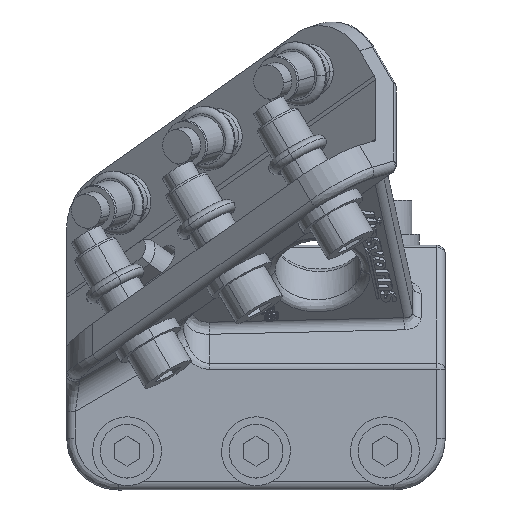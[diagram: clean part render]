
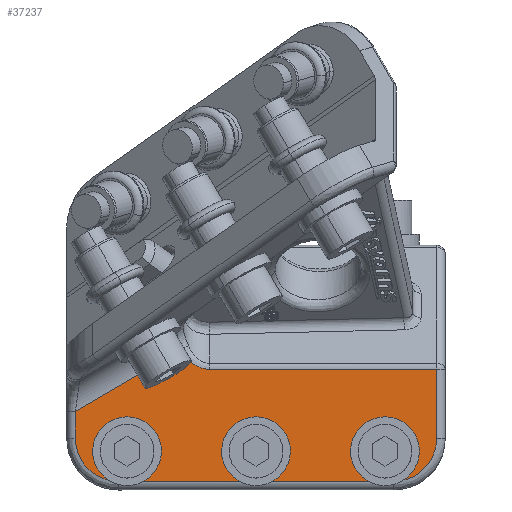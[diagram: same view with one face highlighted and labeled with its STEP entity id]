
A CAD part, top view. The second image highlights one B-rep face of the part: STEP entity #37237.
In plain terms, the highlighted planar face has unit normal (0, 0, 1).
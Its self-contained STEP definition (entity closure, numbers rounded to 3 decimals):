
#27675=CARTESIAN_POINT('Vertex',(102.681,-18.938,23.6)) ;
#27731=CARTESIAN_POINT('Control Point',(109.154,-23.607,23.6)) ;
#27732=CARTESIAN_POINT('Control Point',(107.415,-23.635,23.6)) ;
#27733=CARTESIAN_POINT('Control Point',(105.722,-22.884,23.6)) ;
#27734=CARTESIAN_POINT('Control Point',(104.419,-21.739,23.6)) ;
#27735=CARTESIAN_POINT('Control Point',(103.424,-20.394,23.6)) ;
#27736=CARTESIAN_POINT('Control Point',(102.681,-18.938,23.6)) ;
#27737=CARTESIAN_POINT('Vertex',(109.154,-23.607,23.6)) ;
#27836=CARTESIAN_POINT('Line Origine',(31.9,-23.607,23.6)) ;
#27840=CARTESIAN_POINT('Vertex',(162.,-23.607,23.6)) ;
#37094=CARTESIAN_POINT('Vertex',(78.,-33.396,23.6)) ;
#37097=CARTESIAN_POINT('Line Origine',(27.146,-63.185,23.6)) ;
#37111=CARTESIAN_POINT('Axis2P3D Location',(120.,-42.661,23.6)) ;
#37116=CARTESIAN_POINT('Line Origine',(78.,-36.53,23.6)) ;
#37120=CARTESIAN_POINT('Vertex',(78.,-39.663,23.6)) ;
#37124=CARTESIAN_POINT('Control Point',(78.,-39.663,23.6)) ;
#37125=CARTESIAN_POINT('Control Point',(78.,-40.593,23.6)) ;
#37126=CARTESIAN_POINT('Control Point',(78.108,-41.522,23.6)) ;
#37127=CARTESIAN_POINT('Control Point',(78.324,-42.435,23.6)) ;
#37128=CARTESIAN_POINT('Control Point',(78.964,-44.194,23.6)) ;
#37129=CARTESIAN_POINT('Control Point',(79.991,-45.759,23.6)) ;
#37130=CARTESIAN_POINT('Control Point',(80.593,-46.478,23.6)) ;
#37131=CARTESIAN_POINT('Control Point',(81.953,-47.763,23.6)) ;
#37132=CARTESIAN_POINT('Control Point',(83.572,-48.702,23.6)) ;
#37133=CARTESIAN_POINT('Control Point',(84.432,-49.075,23.6)) ;
#37134=CARTESIAN_POINT('Control Point',(85.669,-49.447,23.6)) ;
#37135=CARTESIAN_POINT('Control Point',(86.941,-49.616,23.6)) ;
#37136=CARTESIAN_POINT('Control Point',(87.294,-49.648,23.6)) ;
#37137=CARTESIAN_POINT('Control Point',(87.647,-49.663,23.6)) ;
#37138=CARTESIAN_POINT('Control Point',(88.,-49.663,23.6)) ;
#37139=CARTESIAN_POINT('Vertex',(88.,-49.663,23.6)) ;
#37142=CARTESIAN_POINT('Line Origine',(120.,-49.663,23.6)) ;
#37146=CARTESIAN_POINT('Vertex',(152.,-49.663,23.6)) ;
#37150=CARTESIAN_POINT('Control Point',(152.,-49.663,23.6)) ;
#37151=CARTESIAN_POINT('Control Point',(152.929,-49.663,23.6)) ;
#37152=CARTESIAN_POINT('Control Point',(153.859,-49.555,23.6)) ;
#37153=CARTESIAN_POINT('Control Point',(154.772,-49.339,23.6)) ;
#37154=CARTESIAN_POINT('Control Point',(156.531,-48.699,23.6)) ;
#37155=CARTESIAN_POINT('Control Point',(158.096,-47.673,23.6)) ;
#37156=CARTESIAN_POINT('Control Point',(158.815,-47.07,23.6)) ;
#37157=CARTESIAN_POINT('Control Point',(160.1,-45.71,23.6)) ;
#37158=CARTESIAN_POINT('Control Point',(161.039,-44.091,23.6)) ;
#37159=CARTESIAN_POINT('Control Point',(161.412,-43.231,23.6)) ;
#37160=CARTESIAN_POINT('Control Point',(161.784,-41.995,23.6)) ;
#37161=CARTESIAN_POINT('Control Point',(161.953,-40.722,23.6)) ;
#37162=CARTESIAN_POINT('Control Point',(161.984,-40.369,23.6)) ;
#37163=CARTESIAN_POINT('Control Point',(162.,-40.016,23.6)) ;
#37164=CARTESIAN_POINT('Control Point',(162.,-39.663,23.6)) ;
#37165=CARTESIAN_POINT('Vertex',(162.,-39.663,23.6)) ;
#37168=CARTESIAN_POINT('Line Origine',(162.,-31.635,23.6)) ;
#37183=CARTESIAN_POINT('Axis2P3D Location',(90.,-42.661,23.6)) ;
#37187=CARTESIAN_POINT('Vertex',(90.,-37.911,23.6)) ;
#37189=CARTESIAN_POINT('Vertex',(90.,-47.411,23.6)) ;
#37192=CARTESIAN_POINT('Axis2P3D Location',(90.,-42.661,23.6)) ;
#37201=CARTESIAN_POINT('Axis2P3D Location',(120.,-42.661,23.6)) ;
#37205=CARTESIAN_POINT('Vertex',(120.,-37.911,23.6)) ;
#37207=CARTESIAN_POINT('Vertex',(120.,-47.411,23.6)) ;
#37210=CARTESIAN_POINT('Axis2P3D Location',(120.,-42.661,23.6)) ;
#37219=CARTESIAN_POINT('Axis2P3D Location',(150.,-42.661,23.6)) ;
#37223=CARTESIAN_POINT('Vertex',(150.,-37.911,23.6)) ;
#37225=CARTESIAN_POINT('Vertex',(150.,-47.411,23.6)) ;
#37228=CARTESIAN_POINT('Axis2P3D Location',(150.,-42.661,23.6)) ;
#27837=DIRECTION('Vector Direction',(1.,0.,0.)) ;
#37098=DIRECTION('Vector Direction',(0.863,0.505,0.)) ;
#37112=DIRECTION('Axis2P3D Direction',(0.,0.,-1.)) ;
#37113=DIRECTION('Axis2P3D XDirection',(0.,1.,0.)) ;
#37117=DIRECTION('Vector Direction',(0.,1.,0.)) ;
#37143=DIRECTION('Vector Direction',(-1.,0.,0.)) ;
#37169=DIRECTION('Vector Direction',(0.,-1.,0.)) ;
#37184=DIRECTION('Axis2P3D Direction',(0.,0.,-1.)) ;
#37193=DIRECTION('Axis2P3D Direction',(0.,0.,-1.)) ;
#37202=DIRECTION('Axis2P3D Direction',(0.,0.,-1.)) ;
#37211=DIRECTION('Axis2P3D Direction',(0.,0.,-1.)) ;
#37220=DIRECTION('Axis2P3D Direction',(0.,0.,-1.)) ;
#37229=DIRECTION('Axis2P3D Direction',(0.,0.,-1.)) ;
#37114=AXIS2_PLACEMENT_3D('Plane Axis2P3D',#37111,#37112,#37113) ;
#37185=AXIS2_PLACEMENT_3D('Circle Axis2P3D',#37183,#37184,$) ;
#37194=AXIS2_PLACEMENT_3D('Circle Axis2P3D',#37192,#37193,$) ;
#37203=AXIS2_PLACEMENT_3D('Circle Axis2P3D',#37201,#37202,$) ;
#37212=AXIS2_PLACEMENT_3D('Circle Axis2P3D',#37210,#37211,$) ;
#37221=AXIS2_PLACEMENT_3D('Circle Axis2P3D',#37219,#37220,$) ;
#37230=AXIS2_PLACEMENT_3D('Circle Axis2P3D',#37228,#37229,$) ;
#37174=ORIENTED_EDGE('',*,*,#37122,.T.) ;
#37175=ORIENTED_EDGE('',*,*,#37141,.T.) ;
#37176=ORIENTED_EDGE('',*,*,#37148,.T.) ;
#37177=ORIENTED_EDGE('',*,*,#37167,.T.) ;
#37178=ORIENTED_EDGE('',*,*,#37172,.T.) ;
#37179=ORIENTED_EDGE('',*,*,#27842,.T.) ;
#37180=ORIENTED_EDGE('',*,*,#27739,.T.) ;
#37181=ORIENTED_EDGE('',*,*,#37101,.T.) ;
#37198=ORIENTED_EDGE('',*,*,#37191,.T.) ;
#37199=ORIENTED_EDGE('',*,*,#37196,.T.) ;
#37216=ORIENTED_EDGE('',*,*,#37209,.T.) ;
#37217=ORIENTED_EDGE('',*,*,#37214,.T.) ;
#37234=ORIENTED_EDGE('',*,*,#37227,.T.) ;
#37235=ORIENTED_EDGE('',*,*,#37232,.T.) ;
#37200=FACE_BOUND('',#37197,.T.) ;
#37218=FACE_BOUND('',#37215,.T.) ;
#37236=FACE_BOUND('',#37233,.T.) ;
#27838=VECTOR('Line Direction',#27837,1.) ;
#37099=VECTOR('Line Direction',#37098,1.) ;
#37118=VECTOR('Line Direction',#37117,1.) ;
#37144=VECTOR('Line Direction',#37143,1.) ;
#37170=VECTOR('Line Direction',#37169,1.) ;
#37237=ADVANCED_FACE('5251917_SW50_SW80.1',(#37182,#37200,#37218,#37236),#37115,.F.) ;
#27730=B_SPLINE_CURVE_WITH_KNOTS('',5,(#27731,#27732,#27733,#27734,#27735,#27736),.UNSPECIFIED.,.F.,.U.,(6,6),(0.,7.905),.UNSPECIFIED.) ;
#37123=B_SPLINE_CURVE_WITH_KNOTS('',5,(#37124,#37125,#37126,#37127,#37128,#37129,#37130,#37131,#37132,#37133,#37134,#37135,#37136,#37137,#37138),.UNSPECIFIED.,.F.,.U.,(6,3,3,3,6),(0.,6.751,13.502,20.251,22.815),.UNSPECIFIED.) ;
#37149=B_SPLINE_CURVE_WITH_KNOTS('',5,(#37150,#37151,#37152,#37153,#37154,#37155,#37156,#37157,#37158,#37159,#37160,#37161,#37162,#37163,#37164),.UNSPECIFIED.,.F.,.U.,(6,3,3,3,6),(0.,6.751,13.502,20.251,22.815),.UNSPECIFIED.) ;
#37186=CIRCLE('generated circle',#37185,4.75) ;
#37195=CIRCLE('generated circle',#37194,4.75) ;
#37204=CIRCLE('generated circle',#37203,4.75) ;
#37213=CIRCLE('generated circle',#37212,4.75) ;
#37222=CIRCLE('generated circle',#37221,4.75) ;
#37231=CIRCLE('generated circle',#37230,4.75) ;
#27739=EDGE_CURVE('',#27738,#27676,#27730,.T.) ;
#27842=EDGE_CURVE('',#27841,#27738,#27839,.F.) ;
#37101=EDGE_CURVE('',#27676,#37095,#37100,.F.) ;
#37122=EDGE_CURVE('',#37095,#37121,#37119,.F.) ;
#37141=EDGE_CURVE('',#37121,#37140,#37123,.T.) ;
#37148=EDGE_CURVE('',#37140,#37147,#37145,.F.) ;
#37167=EDGE_CURVE('',#37147,#37166,#37149,.T.) ;
#37172=EDGE_CURVE('',#37166,#27841,#37171,.F.) ;
#37191=EDGE_CURVE('',#37188,#37190,#37186,.T.) ;
#37196=EDGE_CURVE('',#37190,#37188,#37195,.T.) ;
#37209=EDGE_CURVE('',#37206,#37208,#37204,.T.) ;
#37214=EDGE_CURVE('',#37208,#37206,#37213,.T.) ;
#37227=EDGE_CURVE('',#37224,#37226,#37222,.T.) ;
#37232=EDGE_CURVE('',#37226,#37224,#37231,.T.) ;
#37173=EDGE_LOOP('',(#37174,#37175,#37176,#37177,#37178,#37179,#37180,#37181)) ;
#37197=EDGE_LOOP('',(#37198,#37199)) ;
#37215=EDGE_LOOP('',(#37216,#37217)) ;
#37233=EDGE_LOOP('',(#37234,#37235)) ;
#37182=FACE_OUTER_BOUND('',#37173,.T.) ;
#27839=LINE('Line',#27836,#27838) ;
#37100=LINE('Line',#37097,#37099) ;
#37119=LINE('Line',#37116,#37118) ;
#37145=LINE('Line',#37142,#37144) ;
#37171=LINE('Line',#37168,#37170) ;
#37115=PLANE('',#37114) ;
#27676=VERTEX_POINT('',#27675) ;
#27738=VERTEX_POINT('',#27737) ;
#27841=VERTEX_POINT('',#27840) ;
#37095=VERTEX_POINT('',#37094) ;
#37121=VERTEX_POINT('',#37120) ;
#37140=VERTEX_POINT('',#37139) ;
#37147=VERTEX_POINT('',#37146) ;
#37166=VERTEX_POINT('',#37165) ;
#37188=VERTEX_POINT('',#37187) ;
#37190=VERTEX_POINT('',#37189) ;
#37206=VERTEX_POINT('',#37205) ;
#37208=VERTEX_POINT('',#37207) ;
#37224=VERTEX_POINT('',#37223) ;
#37226=VERTEX_POINT('',#37225) ;
